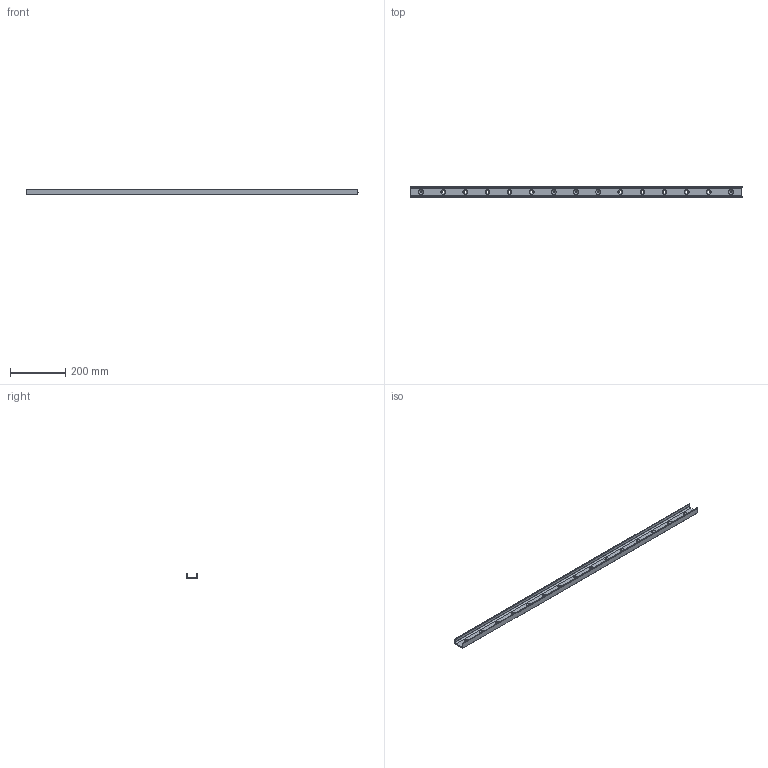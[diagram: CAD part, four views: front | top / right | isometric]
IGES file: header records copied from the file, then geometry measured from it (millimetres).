
Start section: SolidWorks IGES file using analytic representation for surfaces
Global section: file name: C:\Users\IanO\Desktop\43\L1943.ULV43_v2_20180121_IGES\L1943.ULV43-1200.igs; native system: SolidWorks 2017; preprocessor: SolidWorks 2017; author: IanO; date: 190121.090028; units: millimetre
Bounding box: 1200 x 43 x 21 mm (x, y, z)
Surface area: 186575.2 mm2 (no closed solid volume)
Topology: 0 solids, 0 shells, 86 faces, 1494 edges, 1494 vertices
Faces by surface type: revolution 73, bspline 13
